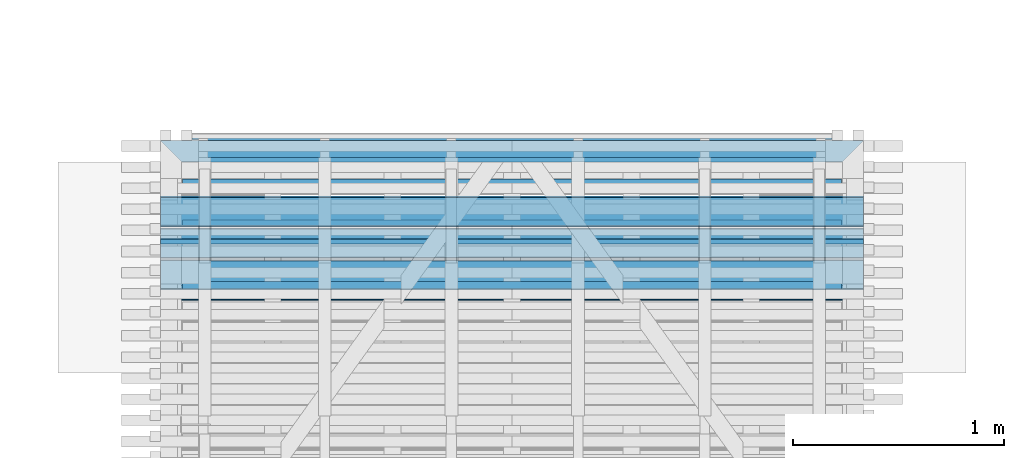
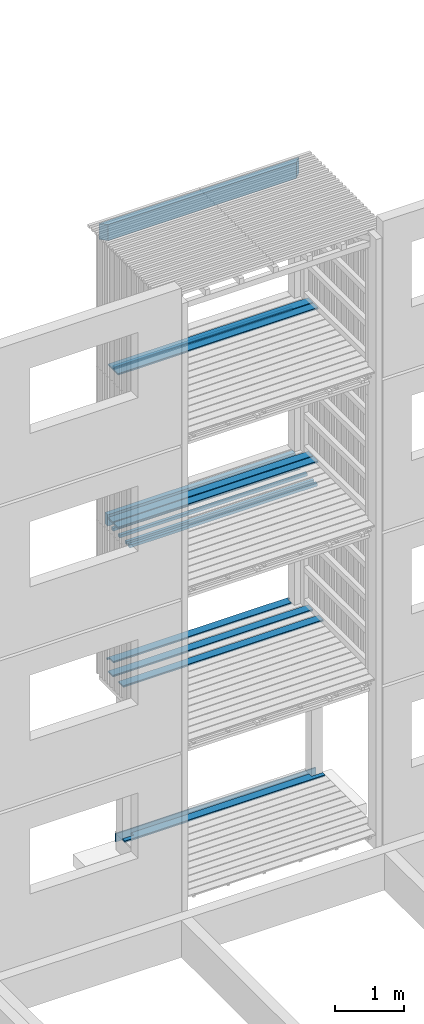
# One storey, part 102 of 182: 16 beams.
"""IFC2X3 building model written with IfcOpenShell, lengths in metres."""

from ifc_helpers import new_model, si_unit, frame, origin, place, context, project, spatial, faceted_brep, element, save


model = new_model("IFC2X3")

# Units and contexts
model_context = context("Model", 3, precision=1e-06, world=origin())
ifc_project = project(units=[si_unit("LENGTHUNIT", "METRE"), si_unit("PLANEANGLEUNIT", "RADIAN")], contexts=[model_context])

# Site, building, storey
site = spatial("IfcSite", under=ifc_project, CompositionType="ELEMENT")
building = spatial("IfcBuilding", under=site, CompositionType="ELEMENT")
storey = spatial("IfcBuildingStorey", under=building, Name="vs", CompositionType="ELEMENT", Elevation=-0.85)

# Beams
placement = place(None, origin())
beam_1_placement = place(placement, frame((46.240401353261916, 6.577577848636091, 5.167399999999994), z_axis=(0.0, 0.0, 1.0), x_axis=(-1.0, -1e-15, 0.0)))
element("IfcBeam", 1, at=beam_1_placement, inside=storey, Name="Bardage", context=model_context, shape_type="Brep", body=[
    faceted_brep([(3.120000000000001, 0.024999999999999, 0.024999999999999), (3.120000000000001, -0.025000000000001, 0.024999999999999), (3.120000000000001, -0.025000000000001, -0.024999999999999), (3.120000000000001, 0.024999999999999, -0.024999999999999), (-3e-15, -0.024999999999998, 0.024999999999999), (-3e-15, 0.025000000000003, 0.024999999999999), (-3e-15, 0.025000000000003, -0.024999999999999), (-3e-15, -0.024999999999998, -0.024999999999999), (-3e-15, -0.024999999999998, -0.024999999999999), (-3e-15, 0.025000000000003, -0.024999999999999), (3.120000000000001, 0.024999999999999, -0.024999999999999), (3.120000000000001, -0.025000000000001, -0.024999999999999), (-3e-15, -0.024999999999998, -0.024999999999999), (3.120000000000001, -0.025000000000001, -0.024999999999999), (3.120000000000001, -0.025000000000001, 0.024999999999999), (-3e-15, -0.024999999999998, 0.024999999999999), (3.120000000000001, 0.024999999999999, 0.024999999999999), (3.120000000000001, 0.024999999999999, -0.024999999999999), (-3e-15, 0.025000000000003, -0.024999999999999), (-3e-15, 0.025000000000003, 0.024999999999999), (3.120000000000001, 0.024999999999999, 0.024999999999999), (-3e-15, 0.025000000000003, 0.024999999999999), (-3e-15, -0.024999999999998, 0.024999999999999), (3.120000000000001, -0.025000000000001, 0.024999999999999)], [[[0, 1, 2, 3]], [[4, 5, 6, 7]], [[8, 9, 10, 11]], [[12, 13, 14, 15]], [[16, 17, 18, 19]], [[20, 21, 22, 23]]]),
])
beam_2_placement = place(placement, frame((46.34540135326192, 6.934577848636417, 2.733499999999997), z_axis=(0.0, 0.0, 1.0), x_axis=(-1.0, -1e-15, 0.0)))
element("IfcBeam", 2, at=beam_2_placement, inside=storey, Name="Caillebotis", context=model_context, shape_type="Brep", body=[
    faceted_brep([(3.329999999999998, -0.072500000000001, -0.0135), (3.329999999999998, 0.072500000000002, -0.0135), (3.329999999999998, 0.072500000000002, 0.008500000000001), (3.329999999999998, 0.067499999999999, 0.0135), (3.329999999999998, -0.067499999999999, 0.0135), (3.329999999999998, -0.072500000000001, 0.008500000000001), (0.0, -0.072499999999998, 0.008500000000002), (0.0, -0.067499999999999, 0.0135), (0.0, 0.067500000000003, 0.0135), (0.0, 0.072500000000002, 0.008500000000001), (0.0, 0.072500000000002, -0.0135), (0.0, -0.072499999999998, -0.0135), (3.329999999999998, 0.072500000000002, 0.008500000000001), (3.329999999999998, 0.072500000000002, -0.0135), (0.0, 0.072500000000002, -0.0135), (0.0, 0.072500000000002, 0.008500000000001), (3.329999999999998, 0.067499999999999, 0.0135), (3.329999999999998, 0.072500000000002, 0.008500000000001), (0.0, 0.072500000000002, 0.008500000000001), (0.0, 0.067500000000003, 0.0135), (3.329999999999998, -0.067499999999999, 0.0135), (3.329999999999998, 0.067499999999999, 0.0135), (0.0, 0.067500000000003, 0.0135), (0.0, -0.067499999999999, 0.0135), (3.329999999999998, -0.072500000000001, 0.008500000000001), (3.329999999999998, -0.067499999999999, 0.0135), (0.0, -0.067499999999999, 0.0135), (0.0, -0.072499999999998, 0.008500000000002), (3.329999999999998, -0.072500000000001, -0.0135), (3.329999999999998, -0.072500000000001, 0.008500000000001), (0.0, -0.072499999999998, 0.008500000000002), (0.0, -0.072499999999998, -0.0135), (0.0, 0.072500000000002, -0.0135), (3.329999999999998, 0.072500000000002, -0.0135), (3.329999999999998, -0.072500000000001, -0.0135), (0.0, -0.072499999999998, -0.0135)], [[[0, 1, 2, 3, 4, 5]], [[6, 7, 8, 9, 10, 11]], [[12, 13, 14, 15]], [[16, 17, 18, 19]], [[20, 21, 22, 23]], [[24, 25, 26, 27]], [[28, 29, 30, 31]], [[32, 33, 34, 35]]]),
])
beam_3_placement = place(placement, frame((43.01540135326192, 6.793577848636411, -0.0575), z_axis=(0.0, 0.0, -1.0), x_axis=(1.0, 0.0, 0.0)))
element("IfcBeam", 3, at=beam_3_placement, inside=storey, Name="Caillebotis", context=model_context, shape_type="Brep", body=[
    faceted_brep([(2e-15, -0.008499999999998, -0.0725), (2e-15, -0.0135, -0.067500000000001), (2e-15, -0.0135, 0.067500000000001), (2e-15, -0.008500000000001, 0.0725), (2e-15, 0.013500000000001, 0.0725), (2e-15, 0.013500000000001, -0.0725), (3.329999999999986, 0.013499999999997, -0.0725), (3.329999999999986, 0.013499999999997, 0.0725), (3.329999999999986, -0.008500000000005, 0.0725), (3.329999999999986, -0.0135, 0.067500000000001), (3.329999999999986, -0.0135, -0.067500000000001), (3.329999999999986, -0.008500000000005, -0.0725), (2e-15, -0.0135, 0.067500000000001), (2e-15, -0.0135, -0.067500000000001), (3.329999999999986, -0.0135, -0.067500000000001), (3.329999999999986, -0.0135, 0.067500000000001), (2e-15, -0.008500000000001, 0.0725), (2e-15, -0.0135, 0.067500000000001), (3.329999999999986, -0.0135, 0.067500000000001), (3.329999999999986, -0.008500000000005, 0.0725), (2e-15, 0.013500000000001, 0.0725), (2e-15, -0.008500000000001, 0.0725), (3.329999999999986, -0.008500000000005, 0.0725), (3.329999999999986, 0.013499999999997, 0.0725), (2e-15, 0.013500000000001, -0.0725), (2e-15, 0.013500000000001, 0.0725), (3.329999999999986, 0.013499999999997, 0.0725), (3.329999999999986, 0.013499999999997, -0.0725), (2e-15, -0.008499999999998, -0.0725), (2e-15, 0.013500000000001, -0.0725), (3.329999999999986, 0.013499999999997, -0.0725), (3.329999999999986, -0.008500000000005, -0.0725), (3.329999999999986, -0.0135, -0.067500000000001), (2e-15, -0.0135, -0.067500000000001), (2e-15, -0.008499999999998, -0.0725), (3.329999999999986, -0.008500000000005, -0.0725)], [[[0, 1, 2, 3, 4, 5]], [[6, 7, 8, 9, 10, 11]], [[12, 13, 14, 15]], [[16, 17, 18, 19]], [[20, 21, 22, 23]], [[24, 25, 26, 27]], [[28, 29, 30, 31]], [[32, 33, 34, 35]]]),
])
beam_4_placement = place(placement, frame((43.195401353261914, 7.16507784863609, 7.917399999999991), z_axis=(0.0, 0.0, 1.0), x_axis=(1.0, 1e-15, 0.0)))
element("IfcBeam", 4, at=beam_4_placement, inside=storey, Name="Ligneul", context=model_context, shape_type="Brep", body=[
    faceted_brep([(2e-15, 0.025000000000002, -0.025000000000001), (2.970000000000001, 0.025000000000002, -0.025000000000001), (2.970000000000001, -0.025000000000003, -0.025000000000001), (2e-15, -0.024999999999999, -0.025000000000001), (2e-15, -0.024999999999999, 0.024999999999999), (2e-15, 0.025000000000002, 0.024999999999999), (2e-15, 0.025000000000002, -0.025000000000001), (2e-15, -0.024999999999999, -0.025000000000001), (2e-15, -0.024999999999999, 0.024999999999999), (2e-15, -0.024999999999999, -0.025000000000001), (2.970000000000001, -0.025000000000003, -0.025000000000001), (2.970000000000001, -0.025000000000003, 0.024999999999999), (2.970000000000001, -0.025000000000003, 0.024999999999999), (2.970000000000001, -0.025000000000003, -0.025000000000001), (2.970000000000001, 0.025000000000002, -0.025000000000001), (2.970000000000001, 0.025000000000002, 0.024999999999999), (2e-15, 0.025000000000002, 0.024999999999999), (2e-15, -0.024999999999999, 0.024999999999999), (2.970000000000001, -0.025000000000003, 0.024999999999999), (2.970000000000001, 0.025000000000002, 0.024999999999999), (2.970000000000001, 0.025000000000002, -0.025000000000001), (2e-15, 0.025000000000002, -0.025000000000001), (2e-15, 0.025000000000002, 0.024999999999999), (2.970000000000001, 0.025000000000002, 0.024999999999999)], [[[0, 1, 2, 3]], [[4, 5, 6, 7]], [[8, 9, 10, 11]], [[12, 13, 14, 15]], [[16, 17, 18, 19]], [[20, 21, 22, 23]]]),
])
beam_5_placement = place(placement, frame((46.34540135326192, 6.784577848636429, 8.13349999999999), z_axis=(0.0, 0.0, 1.0), x_axis=(-1.0, -1e-14, 0.0)))
element("IfcBeam", 5, at=beam_5_placement, inside=storey, Name="Caillebotis", context=model_context, shape_type="Brep", body=[
    faceted_brep([(3.329999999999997, -0.072500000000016, -0.013500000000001), (3.329999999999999, 0.072499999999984, -0.013500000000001), (3.329999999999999, 0.072499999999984, 0.008499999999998), (3.329999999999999, 0.067499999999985, 0.013499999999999), (3.329999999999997, -0.067500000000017, 0.013499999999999), (3.329999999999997, -0.072500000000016, 0.0085), (-1e-15, -0.072499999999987, 0.0085), (-1e-15, -0.067499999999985, 0.013499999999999), (1e-15, 0.067500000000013, 0.013499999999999), (1e-15, 0.072500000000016, 0.008499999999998), (1e-15, 0.072500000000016, -0.013500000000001), (-1e-15, -0.072499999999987, -0.013500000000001), (3.329999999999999, 0.072499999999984, 0.008499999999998), (3.329999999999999, 0.072499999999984, -0.013500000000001), (1e-15, 0.072500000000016, -0.013500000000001), (1e-15, 0.072500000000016, 0.008499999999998), (3.329999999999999, 0.067499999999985, 0.013499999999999), (3.329999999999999, 0.072499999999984, 0.008499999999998), (1e-15, 0.072500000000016, 0.008499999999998), (1e-15, 0.067500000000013, 0.013499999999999), (3.329999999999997, -0.067500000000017, 0.013499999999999), (3.329999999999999, 0.067499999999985, 0.013499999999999), (1e-15, 0.067500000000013, 0.013499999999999), (-1e-15, -0.067499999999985, 0.013499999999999), (3.329999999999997, -0.072500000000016, 0.0085), (3.329999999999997, -0.067500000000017, 0.013499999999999), (-1e-15, -0.067499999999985, 0.013499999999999), (-1e-15, -0.072499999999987, 0.0085), (3.329999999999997, -0.072500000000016, -0.013500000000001), (3.329999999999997, -0.072500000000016, 0.0085), (-1e-15, -0.072499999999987, 0.0085), (-1e-15, -0.072499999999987, -0.013500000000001), (1e-15, 0.072500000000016, -0.013500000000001), (3.329999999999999, 0.072499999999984, -0.013500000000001), (3.329999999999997, -0.072500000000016, -0.013500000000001), (-1e-15, -0.072499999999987, -0.013500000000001)], [[[0, 1, 2, 3, 4, 5]], [[6, 7, 8, 9, 10, 11]], [[12, 13, 14, 15]], [[16, 17, 18, 19]], [[20, 21, 22, 23]], [[24, 25, 26, 27]], [[28, 29, 30, 31]], [[32, 33, 34, 35]]]),
])
beam_6_placement = place(placement, frame((46.19721953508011, 7.234577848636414, 2.733499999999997), z_axis=(0.0, 0.0, 1.0), x_axis=(-1.0, 0.0, 0.0)))
element("IfcBeam", 6, at=beam_6_placement, inside=storey, Name="Caillebotis", context=model_context, shape_type="Brep", body=[
    faceted_brep([(3.033636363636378, -0.072499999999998, -0.0135), (3.033636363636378, -0.072499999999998, 0.008500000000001), (2e-15, -0.072499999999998, 0.008500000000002), (2e-15, -0.072500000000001, -0.0135), (2.996818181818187, 0.072500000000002, 0.0085), (2.996818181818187, 0.067500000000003, 0.0135), (2.996818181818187, -0.040499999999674, 0.0135), (2.996818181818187, -0.040499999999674, -0.0135), (2.996818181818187, 0.072500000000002, -0.0135), (0.036818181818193, -0.040499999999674, -0.0135), (0.036818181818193, 0.072499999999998, -0.0135), (2.996818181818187, 0.072500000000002, -0.0135), (2.996818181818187, -0.040499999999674, -0.0135), (3.033636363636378, -0.040499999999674, -0.0135), (3.033636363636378, -0.072499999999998, -0.0135), (2e-15, -0.072500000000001, -0.0135), (2e-15, -0.040499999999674, -0.0135), (3.033636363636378, -0.072499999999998, 0.008500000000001), (3.033636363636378, -0.072499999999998, -0.0135), (3.033636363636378, -0.040499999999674, -0.0135), (3.033636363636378, -0.040499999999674, 0.0135), (3.033636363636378, -0.067500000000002, 0.0135), (3.033636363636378, -0.040499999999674, 0.0135), (3.033636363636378, -0.040499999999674, -0.0135), (2.996818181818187, -0.040499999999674, -0.0135), (2.996818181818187, -0.040499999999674, 0.0135), (2.996818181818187, 0.072500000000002, 0.0085), (2.996818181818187, 0.072500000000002, -0.0135), (0.036818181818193, 0.072499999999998, -0.0135), (0.036818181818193, 0.072499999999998, 0.0085), (2.996818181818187, 0.067500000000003, 0.0135), (2.996818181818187, 0.072500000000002, 0.0085), (0.036818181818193, 0.072499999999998, 0.0085), (0.036818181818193, 0.067500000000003, 0.0135), (0.036818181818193, 0.067500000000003, 0.0135), (0.036818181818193, 0.072499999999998, 0.0085), (0.036818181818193, 0.072499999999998, -0.0135), (0.036818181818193, -0.040499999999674, -0.0135), (0.036818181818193, -0.040499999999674, 0.0135), (0.036818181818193, -0.040499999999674, 0.0135), (0.036818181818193, -0.040499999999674, -0.0135), (2e-15, -0.040499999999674, -0.0135), (2e-15, -0.040499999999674, 0.0135), (3.033636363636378, -0.067500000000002, 0.0135), (3.033636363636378, -0.040499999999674, 0.0135), (2.996818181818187, -0.040499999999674, 0.0135), (2.996818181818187, 0.067500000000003, 0.0135), (0.036818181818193, 0.067500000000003, 0.0135), (0.036818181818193, -0.040499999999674, 0.0135), (2e-15, -0.040499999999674, 0.0135), (2e-15, -0.067500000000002, 0.0135), (2e-15, -0.072499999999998, 0.008500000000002), (3.033636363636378, -0.072499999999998, 0.008500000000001), (3.033636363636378, -0.067500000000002, 0.0135), (2e-15, -0.067500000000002, 0.0135), (2e-15, -0.072500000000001, -0.0135), (2e-15, -0.072499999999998, 0.008500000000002), (2e-15, -0.067500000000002, 0.0135), (2e-15, -0.040499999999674, 0.0135), (2e-15, -0.040499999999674, -0.0135)], [[[0, 1, 2, 3]], [[4, 5, 6, 7, 8]], [[9, 10, 11, 12, 13, 14, 15, 16]], [[17, 18, 19, 20, 21]], [[22, 23, 24, 25]], [[26, 27, 28, 29]], [[30, 31, 32, 33]], [[34, 35, 36, 37, 38]], [[39, 40, 41, 42]], [[43, 44, 45, 46, 47, 48, 49, 50]], [[51, 52, 53, 54]], [[55, 56, 57, 58, 59]]]),
])
beam_7_placement = place(placement, frame((46.240401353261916, 6.868827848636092, 5.167399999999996), z_axis=(0.0, 0.0, 1.0), x_axis=(-1.0, 0.0, 0.0)))
element("IfcBeam", 7, at=beam_7_placement, inside=storey, Name="Bardage", context=model_context, shape_type="Brep", body=[
    faceted_brep([(3.120000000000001, 0.025000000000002, -0.025), (3.120000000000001, 0.025000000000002, 0.024999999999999), (3.120000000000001, -0.024999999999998, 0.024999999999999), (3.120000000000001, -0.024999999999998, -0.025), (-3e-15, -0.024999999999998, -0.025), (-3e-15, -0.024999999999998, 0.024999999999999), (-3e-15, 0.025000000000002, 0.024999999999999), (-3e-15, 0.025000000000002, -0.025), (-3e-15, 0.025000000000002, -0.025), (-3e-15, 0.025000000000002, 0.024999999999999), (3.120000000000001, 0.025000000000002, 0.024999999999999), (3.120000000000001, 0.025000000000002, -0.025), (-3e-15, 0.025000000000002, 0.024999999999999), (-3e-15, -0.024999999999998, 0.024999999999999), (3.120000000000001, -0.024999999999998, 0.024999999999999), (3.120000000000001, 0.025000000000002, 0.024999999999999), (-3e-15, -0.024999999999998, 0.024999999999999), (-3e-15, -0.024999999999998, -0.025), (3.120000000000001, -0.024999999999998, -0.025), (3.120000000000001, -0.024999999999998, 0.024999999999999), (-3e-15, -0.024999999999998, -0.025), (-3e-15, 0.025000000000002, -0.025), (3.120000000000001, 0.025000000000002, -0.025), (3.120000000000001, -0.024999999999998, -0.025)], [[[0, 1, 2, 3]], [[4, 5, 6, 7]], [[8, 9, 10, 11]], [[12, 13, 14, 15]], [[16, 17, 18, 19]], [[20, 21, 22, 23]]]),
])
beam_8_placement = place(placement, frame((46.345401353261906, 6.784577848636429, 5.433499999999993), z_axis=(0.0, 0.0, 1.0), x_axis=(-1.0, -1e-14, 0.0)))
element("IfcBeam", 8, at=beam_8_placement, inside=storey, Name="Caillebotis", context=model_context, shape_type="Brep", body=[
    faceted_brep([(3.329999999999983, -0.072500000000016, -0.0135), (3.329999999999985, 0.072499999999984, -0.0135), (3.329999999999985, 0.072499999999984, 0.0085), (3.329999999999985, 0.067499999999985, 0.0135), (3.329999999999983, -0.067500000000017, 0.0135), (3.329999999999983, -0.072500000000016, 0.008500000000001), (-1.5e-14, -0.072499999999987, 0.008500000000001), (-1.5e-14, -0.067499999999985, 0.0135), (-1.4e-14, 0.067500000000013, 0.0135), (-1.4e-14, 0.072500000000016, 0.0085), (-1.4e-14, 0.072500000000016, -0.0135), (-1.5e-14, -0.072499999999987, -0.0135), (3.329999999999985, 0.072499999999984, 0.0085), (3.329999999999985, 0.072499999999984, -0.0135), (-1.4e-14, 0.072500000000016, -0.0135), (-1.4e-14, 0.072500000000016, 0.0085), (3.329999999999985, 0.067499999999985, 0.0135), (3.329999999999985, 0.072499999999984, 0.0085), (-1.4e-14, 0.072500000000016, 0.0085), (-1.4e-14, 0.067500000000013, 0.0135), (3.329999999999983, -0.067500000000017, 0.0135), (3.329999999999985, 0.067499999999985, 0.0135), (-1.4e-14, 0.067500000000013, 0.0135), (-1.5e-14, -0.067499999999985, 0.0135), (3.329999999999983, -0.072500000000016, 0.008500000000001), (3.329999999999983, -0.067500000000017, 0.0135), (-1.5e-14, -0.067499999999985, 0.0135), (-1.5e-14, -0.072499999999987, 0.008500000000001), (3.329999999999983, -0.072500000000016, -0.0135), (3.329999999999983, -0.072500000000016, 0.008500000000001), (-1.5e-14, -0.072499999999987, 0.008500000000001), (-1.5e-14, -0.072499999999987, -0.0135), (-1.4e-14, 0.072500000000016, -0.0135), (3.329999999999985, 0.072499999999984, -0.0135), (3.329999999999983, -0.072500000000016, -0.0135), (-1.5e-14, -0.072499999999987, -0.0135)], [[[0, 1, 2, 3, 4, 5]], [[6, 7, 8, 9, 10, 11]], [[12, 13, 14, 15]], [[16, 17, 18, 19]], [[20, 21, 22, 23]], [[24, 25, 26, 27]], [[28, 29, 30, 31]], [[32, 33, 34, 35]]]),
])
beam_9_placement = place(placement, frame((46.240401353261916, 7.06299451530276, 5.167399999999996), z_axis=(0.0, 0.0, 1.0), x_axis=(-1.0, -1e-15, 0.0)))
element("IfcBeam", 9, at=beam_9_placement, inside=storey, Name="Bardage", context=model_context, shape_type="Brep", body=[
    faceted_brep([(3.120000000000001, 0.024999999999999, -0.025), (3.120000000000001, 0.024999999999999, 0.025), (3.120000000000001, -0.025000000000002, 0.025), (3.120000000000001, -0.025000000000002, -0.025), (-3e-15, -0.024999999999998, -0.025), (-3e-15, -0.024999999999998, 0.025), (-3e-15, 0.025000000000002, 0.025), (-3e-15, 0.025000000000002, -0.025), (-3e-15, 0.025000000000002, -0.025), (-3e-15, 0.025000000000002, 0.025), (3.120000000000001, 0.024999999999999, 0.025), (3.120000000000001, 0.024999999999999, -0.025), (-3e-15, 0.025000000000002, 0.025), (-3e-15, -0.024999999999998, 0.025), (3.120000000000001, -0.025000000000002, 0.025), (3.120000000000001, 0.024999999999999, 0.025), (-3e-15, -0.024999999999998, 0.025), (-3e-15, -0.024999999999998, -0.025), (3.120000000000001, -0.025000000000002, -0.025), (3.120000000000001, -0.025000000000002, 0.025), (-3e-15, -0.024999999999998, -0.025), (-3e-15, 0.025000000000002, -0.025), (3.120000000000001, 0.024999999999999, -0.025), (3.120000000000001, -0.025000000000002, -0.025)], [[[0, 1, 2, 3]], [[4, 5, 6, 7]], [[8, 9, 10, 11]], [[12, 13, 14, 15]], [[16, 17, 18, 19]], [[20, 21, 22, 23]]]),
])
beam_10_placement = place(placement, frame((46.24540135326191, 7.230077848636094, 5.239999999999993), z_axis=(0.0, 0.0, 1.0), x_axis=(-1.0, 0.0, 0.0)))
element("IfcBeam", 10, at=beam_10_placement, inside=storey, Name="Sommier", context=model_context, shape_type="Brep", body=[
    faceted_brep([(3.129999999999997, -0.039999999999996, 0.100000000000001), (3.129999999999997, 0.040000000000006, 0.100000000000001), (1e-15, 0.040000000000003, 0.100000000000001), (1e-15, -0.039999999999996, 0.100000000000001), (3.129999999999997, -0.039999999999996, -0.1), (3.129999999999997, -0.039999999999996, 0.100000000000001), (1e-15, -0.039999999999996, 0.100000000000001), (1e-15, -0.039999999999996, -0.1), (3.129999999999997, -0.039999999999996, 0.100000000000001), (3.129999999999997, -0.039999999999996, -0.1), (3.129999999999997, 0.040000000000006, -0.099999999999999), (3.129999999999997, 0.040000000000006, 0.100000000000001), (3.129999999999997, 0.040000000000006, -0.099999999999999), (3.129999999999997, -0.039999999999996, -0.1), (1e-15, -0.039999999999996, -0.1), (1e-15, 0.040000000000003, -0.1), (1e-15, 0.040000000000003, 0.100000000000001), (3.129999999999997, 0.040000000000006, 0.100000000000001), (3.129999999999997, 0.040000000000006, -0.099999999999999), (1e-15, 0.040000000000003, -0.1), (1e-15, -0.039999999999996, 0.100000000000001), (1e-15, 0.040000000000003, 0.100000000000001), (1e-15, 0.040000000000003, -0.1), (1e-15, -0.039999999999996, -0.1)], [[[0, 1, 2, 3]], [[4, 5, 6, 7]], [[8, 9, 10, 11]], [[12, 13, 14, 15]], [[16, 17, 18, 19]], [[20, 21, 22, 23]]]),
])
beam_11_placement = place(placement, frame((46.240401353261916, 6.674661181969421, 5.167399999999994), z_axis=(0.0, 0.0, 1.0), x_axis=(-1.0, 0.0, 0.0)))
element("IfcBeam", 11, at=beam_11_placement, inside=storey, Name="Bardage", context=model_context, shape_type="Brep", body=[
    faceted_brep([(3.120000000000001, 0.024999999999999, 0.024999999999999), (3.120000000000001, -0.024999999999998, 0.024999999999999), (3.120000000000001, -0.024999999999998, -0.024999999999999), (3.120000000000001, 0.024999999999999, -0.024999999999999), (-3e-15, -0.025000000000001, 0.024999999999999), (-3e-15, 0.024999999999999, 0.024999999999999), (-3e-15, 0.024999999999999, -0.024999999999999), (-3e-15, -0.025000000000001, -0.024999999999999), (3.120000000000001, 0.024999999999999, -0.024999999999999), (3.120000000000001, -0.024999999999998, -0.024999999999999), (-3e-15, -0.025000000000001, -0.024999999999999), (-3e-15, 0.024999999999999, -0.024999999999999), (-3e-15, -0.025000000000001, -0.024999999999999), (3.120000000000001, -0.024999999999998, -0.024999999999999), (3.120000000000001, -0.024999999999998, 0.024999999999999), (-3e-15, -0.025000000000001, 0.024999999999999), (-3e-15, -0.025000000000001, 0.024999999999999), (3.120000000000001, -0.024999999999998, 0.024999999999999), (3.120000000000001, 0.024999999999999, 0.024999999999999), (-3e-15, 0.024999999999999, 0.024999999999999), (-3e-15, 0.024999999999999, 0.024999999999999), (3.120000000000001, 0.024999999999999, 0.024999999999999), (3.120000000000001, 0.024999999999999, -0.024999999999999), (-3e-15, 0.024999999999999, -0.024999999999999)], [[[0, 1, 2, 3]], [[4, 5, 6, 7]], [[8, 9, 10, 11]], [[12, 13, 14, 15]], [[16, 17, 18, 19]], [[20, 21, 22, 23]]]),
])
beam_12_placement = place(placement, frame((46.34540135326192, 6.934577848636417, 8.13349999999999), z_axis=(0.0, 0.0, 1.0), x_axis=(-1.0, -1e-15, 0.0)))
element("IfcBeam", 12, at=beam_12_placement, inside=storey, Name="Caillebotis", context=model_context, shape_type="Brep", body=[
    faceted_brep([(3.329999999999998, -0.072500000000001, -0.013500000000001), (3.329999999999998, 0.072500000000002, -0.013500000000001), (3.329999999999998, 0.072500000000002, 0.0085), (3.329999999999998, 0.067499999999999, 0.013499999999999), (3.329999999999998, -0.067499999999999, 0.013499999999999), (3.329999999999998, -0.072500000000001, 0.0085), (0.0, -0.072499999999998, 0.0085), (0.0, -0.067499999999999, 0.013499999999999), (0.0, 0.067500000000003, 0.013499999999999), (0.0, 0.072500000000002, 0.0085), (0.0, 0.072500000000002, -0.013500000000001), (0.0, -0.072499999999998, -0.013500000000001), (3.329999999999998, 0.072500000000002, 0.0085), (3.329999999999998, 0.072500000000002, -0.013500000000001), (0.0, 0.072500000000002, -0.013500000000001), (0.0, 0.072500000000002, 0.0085), (3.329999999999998, 0.067499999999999, 0.013499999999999), (3.329999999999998, 0.072500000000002, 0.0085), (0.0, 0.072500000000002, 0.0085), (0.0, 0.067500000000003, 0.013499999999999), (3.329999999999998, -0.067499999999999, 0.013499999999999), (3.329999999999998, 0.067499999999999, 0.013499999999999), (0.0, 0.067500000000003, 0.013499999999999), (0.0, -0.067499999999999, 0.013499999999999), (3.329999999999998, -0.072500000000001, 0.0085), (3.329999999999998, -0.067499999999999, 0.013499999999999), (0.0, -0.067499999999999, 0.013499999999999), (0.0, -0.072499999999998, 0.0085), (3.329999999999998, -0.072500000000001, -0.013500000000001), (3.329999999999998, -0.072500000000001, 0.0085), (0.0, -0.072499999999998, 0.0085), (0.0, -0.072499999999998, -0.013500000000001), (0.0, 0.072500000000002, -0.013500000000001), (3.329999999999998, 0.072500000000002, -0.013500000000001), (3.329999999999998, -0.072500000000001, -0.013500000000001), (0.0, -0.072499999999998, -0.013500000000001)], [[[0, 1, 2, 3, 4, 5]], [[6, 7, 8, 9, 10, 11]], [[12, 13, 14, 15]], [[16, 17, 18, 19]], [[20, 21, 22, 23]], [[24, 25, 26, 27]], [[28, 29, 30, 31]], [[32, 33, 34, 35]]]),
])
beam_13_placement = place(placement, frame((46.34540135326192, 6.634577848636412, 2.733499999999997), z_axis=(0.0, 0.0, 1.0), x_axis=(-1.0, 0.0, 0.0)))
element("IfcBeam", 13, at=beam_13_placement, inside=storey, Name="Caillebotis", context=model_context, shape_type="Brep", body=[
    faceted_brep([(3.329999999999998, -0.072499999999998, -0.0135), (3.329999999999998, 0.072499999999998, -0.0135), (3.329999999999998, 0.072499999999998, 0.0085), (3.329999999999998, 0.067500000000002, 0.0135), (3.329999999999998, -0.067500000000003, 0.0135), (3.329999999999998, -0.072499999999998, 0.008500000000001), (0.0, -0.072500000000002, 0.008500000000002), (0.0, -0.067500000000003, 0.0135), (0.0, 0.067499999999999, 0.0135), (0.0, 0.072499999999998, 0.0085), (0.0, 0.072499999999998, -0.0135), (0.0, -0.072500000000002, -0.0135), (3.329999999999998, 0.072499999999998, 0.0085), (3.329999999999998, 0.072499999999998, -0.0135), (0.0, 0.072499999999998, -0.0135), (0.0, 0.072499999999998, 0.0085), (3.329999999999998, 0.067500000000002, 0.0135), (3.329999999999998, 0.072499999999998, 0.0085), (0.0, 0.072499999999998, 0.0085), (0.0, 0.067499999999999, 0.0135), (3.329999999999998, -0.067500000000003, 0.0135), (3.329999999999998, 0.067500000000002, 0.0135), (0.0, 0.067499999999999, 0.0135), (0.0, -0.067500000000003, 0.0135), (3.329999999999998, -0.072499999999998, 0.008500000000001), (3.329999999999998, -0.067500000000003, 0.0135), (0.0, -0.067500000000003, 0.0135), (0.0, -0.072500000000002, 0.008500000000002), (3.329999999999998, -0.072499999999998, -0.0135), (3.329999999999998, -0.072499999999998, 0.008500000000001), (0.0, -0.072500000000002, 0.008500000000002), (0.0, -0.072500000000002, -0.0135), (0.0, 0.072499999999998, -0.0135), (3.329999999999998, 0.072499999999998, -0.0135), (3.329999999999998, -0.072499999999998, -0.0135), (0.0, -0.072500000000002, -0.0135)], [[[0, 1, 2, 3, 4, 5]], [[6, 7, 8, 9, 10, 11]], [[12, 13, 14, 15]], [[16, 17, 18, 19]], [[20, 21, 22, 23]], [[24, 25, 26, 27]], [[28, 29, 30, 31]], [[32, 33, 34, 35]]]),
])
beam_14_placement = place(placement, frame((43.01540135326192, 7.220077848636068, 10.314999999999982), z_axis=(0.0, 0.0, 1.0), x_axis=(1.0, 7e-15, 0.0)))
element("IfcBeam", 14, at=beam_14_placement, inside=storey, Name="Sommier", context=model_context, shape_type="Brep", body=[
    faceted_brep([(3.33, 0.049999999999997, -0.140000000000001), (3.230000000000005, -0.049999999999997, -0.140000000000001), (0.099999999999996, -0.049999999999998, -0.140000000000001), (2e-15, 0.049999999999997, -0.140000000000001), (0.099999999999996, -0.049999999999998, -0.140000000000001), (3.230000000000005, -0.049999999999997, -0.140000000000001), (3.230000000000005, -0.049999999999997, 0.140000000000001), (0.099999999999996, -0.049999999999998, 0.140000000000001), (3.230000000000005, -0.049999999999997, -0.140000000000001), (3.33, 0.049999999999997, -0.140000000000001), (3.33, 0.049999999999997, 0.140000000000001), (3.230000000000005, -0.049999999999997, 0.140000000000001), (3.33, 0.049999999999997, 0.140000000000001), (3.33, 0.049999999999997, -0.140000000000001), (2e-15, 0.049999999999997, -0.140000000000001), (2e-15, 0.049999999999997, 0.140000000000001), (0.099999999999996, -0.049999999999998, 0.140000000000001), (3.230000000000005, -0.049999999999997, 0.140000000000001), (3.33, 0.049999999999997, 0.140000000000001), (2e-15, 0.049999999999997, 0.140000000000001), (0.099999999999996, -0.049999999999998, -0.140000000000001), (0.099999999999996, -0.049999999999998, 0.140000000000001), (2e-15, 0.049999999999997, 0.140000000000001), (2e-15, 0.049999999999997, -0.140000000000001)], [[[0, 1, 2, 3]], [[4, 5, 6, 7]], [[8, 9, 10, 11]], [[12, 13, 14, 15]], [[16, 17, 18, 19]], [[20, 21, 22, 23]]]),
])
beam_15_placement = place(placement, frame((46.345401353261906, 6.584577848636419, 0.033500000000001), z_axis=(0.0, 0.0, 1.0), x_axis=(-1.0, 0.0, 0.0)))
element("IfcBeam", 15, at=beam_15_placement, inside=storey, Name="Caillebotis", context=model_context, shape_type="Brep", body=[
    faceted_brep([(0.184999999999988, -0.000499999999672, -0.0135), (0.184999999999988, -0.072499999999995, -0.0135), (0.184999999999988, -0.072499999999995, 0.008500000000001), (0.184999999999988, -0.067499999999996, 0.0135), (0.184999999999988, -0.000499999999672, 0.0135), (3.329999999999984, -0.000499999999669, 0.0135), (3.329999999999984, -0.000499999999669, -0.013500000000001), (3.329999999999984, 0.072500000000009, -0.013500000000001), (3.329999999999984, 0.072500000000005, 0.0085), (3.329999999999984, 0.067500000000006, 0.0135), (3.144999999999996, -0.072499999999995, 0.008500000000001), (3.144999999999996, -0.072499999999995, -0.013500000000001), (3.144999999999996, -0.000499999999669, -0.013500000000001), (3.144999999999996, -0.000499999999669, 0.0135), (3.144999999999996, -0.067499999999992, 0.0135), (3.144999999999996, -0.000499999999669, 0.0135), (3.144999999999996, -0.000499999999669, -0.013500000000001), (3.329999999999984, -0.000499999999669, -0.013500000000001), (3.329999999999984, -0.000499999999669, 0.0135), (0.184999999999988, -0.067499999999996, 0.0135), (0.184999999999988, -0.072499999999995, 0.008500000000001), (3.144999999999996, -0.072499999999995, 0.008500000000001), (3.144999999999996, -0.067499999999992, 0.0135), (0.184999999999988, -0.072499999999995, 0.008500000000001), (0.184999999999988, -0.072499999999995, -0.0135), (3.144999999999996, -0.072499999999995, -0.013500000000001), (3.144999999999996, -0.072499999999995, 0.008500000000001), (0.0, 0.072500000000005, -0.0135), (0.0, -0.000499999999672, -0.0135), (0.0, -0.000499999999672, 0.0135), (0.0, 0.067500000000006, 0.0135), (0.0, 0.072500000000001, 0.0085), (0.184999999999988, -0.000499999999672, 0.0135), (0.184999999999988, -0.067499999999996, 0.0135), (3.144999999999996, -0.067499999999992, 0.0135), (3.144999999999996, -0.000499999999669, 0.0135), (3.329999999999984, -0.000499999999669, 0.0135), (3.329999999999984, 0.067500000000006, 0.0135), (0.0, 0.067500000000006, 0.0135), (0.0, -0.000499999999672, 0.0135), (0.184999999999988, -0.000499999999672, -0.0135), (0.184999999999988, -0.000499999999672, 0.0135), (0.0, -0.000499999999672, 0.0135), (0.0, -0.000499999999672, -0.0135), (3.329999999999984, 0.072500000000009, -0.013500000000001), (3.329999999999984, -0.000499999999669, -0.013500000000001), (3.144999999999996, -0.000499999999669, -0.013500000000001), (3.144999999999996, -0.072499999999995, -0.013500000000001), (0.184999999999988, -0.072499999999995, -0.0135), (0.184999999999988, -0.000499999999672, -0.0135), (0.0, -0.000499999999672, -0.0135), (0.0, 0.072500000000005, -0.0135), (3.329999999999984, 0.072500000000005, 0.0085), (3.329999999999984, 0.072500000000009, -0.013500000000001), (0.0, 0.072500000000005, -0.0135), (0.0, 0.072500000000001, 0.0085), (0.0, 0.067500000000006, 0.0135), (3.329999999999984, 0.067500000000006, 0.0135), (3.329999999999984, 0.072500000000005, 0.0085), (0.0, 0.072500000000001, 0.0085)], [[[0, 1, 2, 3, 4]], [[5, 6, 7, 8, 9]], [[10, 11, 12, 13, 14]], [[15, 16, 17, 18]], [[19, 20, 21, 22]], [[23, 24, 25, 26]], [[27, 28, 29, 30, 31]], [[32, 33, 34, 35, 36, 37, 38, 39]], [[40, 41, 42, 43]], [[44, 45, 46, 47, 48, 49, 50, 51]], [[52, 53, 54, 55]], [[56, 57, 58, 59]]]),
])
beam_16_placement = place(placement, frame((46.34540135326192, 6.934577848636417, 5.433499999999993), z_axis=(0.0, 0.0, 1.0), x_axis=(-1.0, -1e-15, 0.0)))
element("IfcBeam", 16, at=beam_16_placement, inside=storey, Name="Caillebotis", context=model_context, shape_type="Brep", body=[
    faceted_brep([(3.329999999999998, -0.072500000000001, -0.0135), (3.329999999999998, 0.072500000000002, -0.0135), (3.329999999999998, 0.072500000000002, 0.008500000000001), (3.329999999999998, 0.067499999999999, 0.0135), (3.329999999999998, -0.067499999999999, 0.0135), (3.329999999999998, -0.072500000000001, 0.008500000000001), (0.0, -0.072499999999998, 0.008500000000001), (0.0, -0.067499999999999, 0.0135), (0.0, 0.067500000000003, 0.0135), (0.0, 0.072500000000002, 0.008500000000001), (0.0, 0.072500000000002, -0.0135), (0.0, -0.072499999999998, -0.0135), (3.329999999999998, 0.072500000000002, 0.008500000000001), (3.329999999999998, 0.072500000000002, -0.0135), (0.0, 0.072500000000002, -0.0135), (0.0, 0.072500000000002, 0.008500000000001), (3.329999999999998, 0.067499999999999, 0.0135), (3.329999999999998, 0.072500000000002, 0.008500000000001), (0.0, 0.072500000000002, 0.008500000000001), (0.0, 0.067500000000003, 0.0135), (3.329999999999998, -0.067499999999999, 0.0135), (3.329999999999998, 0.067499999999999, 0.0135), (0.0, 0.067500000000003, 0.0135), (0.0, -0.067499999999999, 0.0135), (3.329999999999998, -0.072500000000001, 0.008500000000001), (3.329999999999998, -0.067499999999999, 0.0135), (0.0, -0.067499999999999, 0.0135), (0.0, -0.072499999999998, 0.008500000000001), (3.329999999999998, -0.072500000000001, -0.0135), (3.329999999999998, -0.072500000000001, 0.008500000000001), (0.0, -0.072499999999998, 0.008500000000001), (0.0, -0.072499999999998, -0.0135), (0.0, 0.072500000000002, -0.0135), (3.329999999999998, 0.072500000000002, -0.0135), (3.329999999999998, -0.072500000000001, -0.0135), (0.0, -0.072499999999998, -0.0135)], [[[0, 1, 2, 3, 4, 5]], [[6, 7, 8, 9, 10, 11]], [[12, 13, 14, 15]], [[16, 17, 18, 19]], [[20, 21, 22, 23]], [[24, 25, 26, 27]], [[28, 29, 30, 31]], [[32, 33, 34, 35]]]),
])

save(model, "model.ifc")
